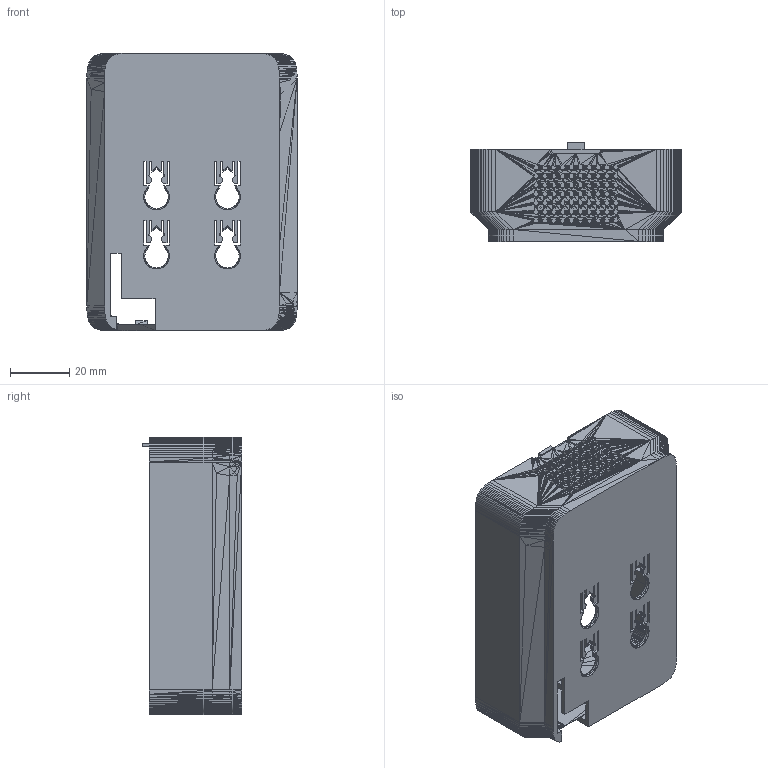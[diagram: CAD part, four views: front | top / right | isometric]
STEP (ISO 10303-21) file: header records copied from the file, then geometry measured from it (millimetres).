
FILE_DESCRIPTION(('Open CASCADE Model'),'2;1');
FILE_NAME('Open CASCADE Shape Model','2026-10-17T14:06:34',('Author'),( 'Open CASCADE'),'Open CASCADE STEP processor 8.0','build123d', 'Unknown');
FILE_SCHEMA(('AUTOMOTIVE_DESIGN { 1 0 10303 214 1 1 1 1 }'));
Products named in the file (1): SOLID
Bounding box: 71.19 x 33.6 x 94 mm (x, y, z)
Volume: 32041.6 mm3; surface area: 35009.2 mm2
Topology: 1 solids, 1 shells, 14733 faces, 24922 edges, 10062 vertices
Faces by surface type: plane 14733
Entity records: 619858 total; most frequent: CARTESIAN_POINT 116393, DIRECTION 87449, LINE 57981, VECTOR 57981, ORIENTED_EDGE 49858, PCURVE 49858, DEFINITIONAL_REPRESENTATION 49858, EDGE_CURVE 24929
